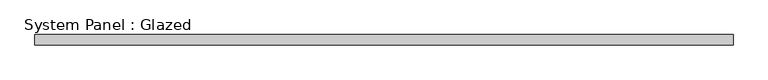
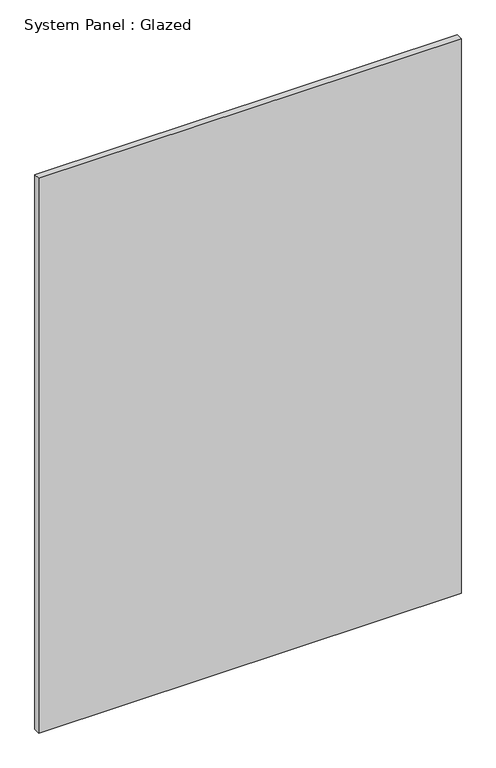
"""IFC4 building model written with IfcOpenShell, lengths in millimetres: plate geometry, System Panel : Glazed."""

from ifc_helpers import new_model, si_unit, origin, origin_with_axes, place, context, project, spatial, polyline, outline, extrude, source, transform, mapped, element, save


def system_panel_glazed_02823afe(model_context):
    return source(origin(), model_context, "Body", "SweptSolid", [
        extrude(outline(polyline([(855.4684602, 19.05), (-855.4684602, 19.05), (-855.4684602, 44.45), (855.4684602, 44.45), (855.4684602, 19.05)])), origin_with_axes(), (0.0, 0.0, 1.0), 2374.7638735),
    ])


if __name__ == "__main__":
    model = new_model("IFC4")
    model_context = context("Model", 3, world=origin())
    ifc_project = project(units=[si_unit("LENGTHUNIT", "METRE", prefix="MILLI")], contexts=[model_context])
    site = spatial("IfcSite", under=ifc_project)
    building = spatial("IfcBuilding", under=site)
    placement = place(None, origin())
    system_panel_glazed_shape = system_panel_glazed_02823afe(model_context)
    element("IfcPlate", 1, ObjectType="System Panel : Glazed", at=placement, inside=building, context=model_context, shape_type="MappedRepresentation", body=[
        mapped(system_panel_glazed_shape, transform((0.0, 0.0, 0.0), x_axis=(1.0, 0.0, 0.0), y_axis=(0.0, 1.0, 0.0), z_axis=(0.0, 0.0, 1.0))),
    ])
    save(model, "model.ifc")
